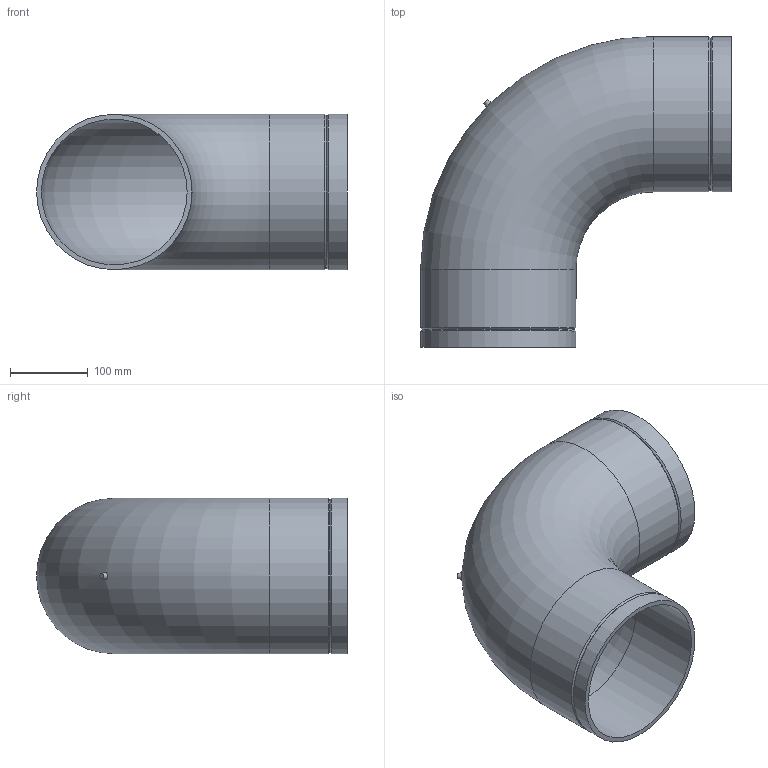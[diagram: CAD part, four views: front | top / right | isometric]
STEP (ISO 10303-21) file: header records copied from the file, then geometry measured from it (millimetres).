
FILE_DESCRIPTION(/* description */ (''),/* implementation_level */ '2;1');
FILE_NAME(/* name */ 'Z:\Geberit\Export\NewStep\370055.stp',/* time_stamp */ '2014-04-02T08:03:33+02:00',/* author */ ('nelson'),/* organization */ (''),/* preprocessor_version */ 'ST-DEVELOPER v15.2',/* originating_system */ 'Autodesk Inventor 2014',/* authorisation */ '');
FILE_SCHEMA (('AUTOMOTIVE_DESIGN { 1 0 10303 214 3 1 1 }'));
Length unit declared in the file: millimetre
Products named in the file (1): 370055
Bounding box: 400 x 400 x 200 mm (x, y, z)
Volume: 1936162.8 mm3; surface area: 635758.8 mm2
Topology: 1 solids, 1 shells, 16 faces, 32 edges, 18 vertices
Faces by surface type: cylinder 6, cone 5, plane 3, torus 2
Full cylindrical faces by diameter (mm): 187.6 x2, 200 x4
Entity records: 391 total; most frequent: CARTESIAN_POINT 94, DIRECTION 64, EDGE_LOOP 32, ORIENTED_EDGE 32, AXIS2_PLACEMENT_3D 32, FACE_BOUND 18, VERTEX_POINT 16, EDGE_CURVE 16
